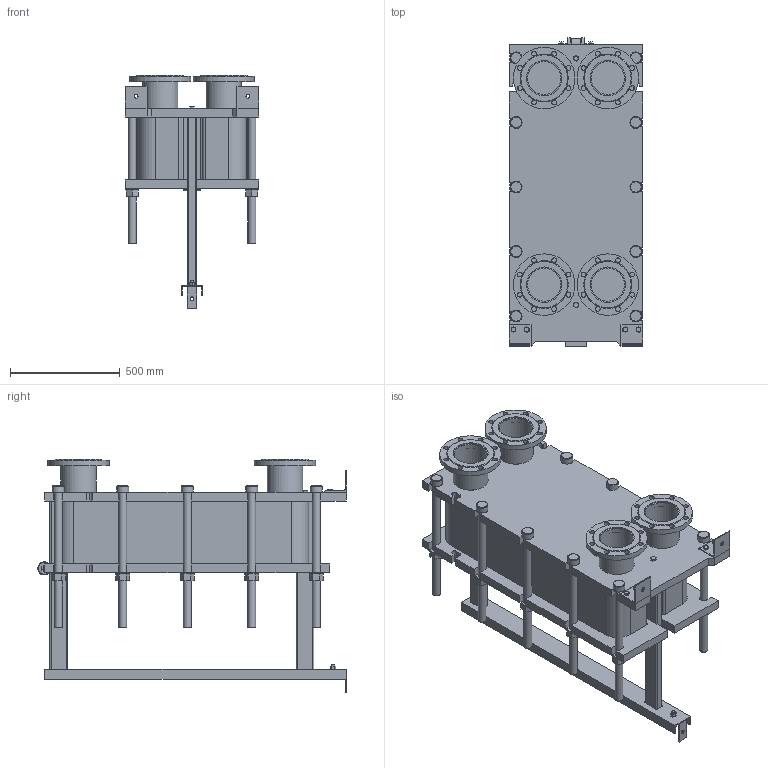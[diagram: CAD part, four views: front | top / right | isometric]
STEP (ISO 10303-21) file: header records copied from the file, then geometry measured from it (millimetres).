
FILE_DESCRIPTION(/* description */ (''),/* implementation_level */ '2;1');
FILE_NAME(/* name */ 'C:\Users\zhuro\Desktop\ENCO\TO\ЭН-041\ЭН-0,5-041-83-1.stp',/* time_stamp */ '2022-06-06T10:56:29+03:00',/* author */ ('zhuro'),/* organization */ (''),/* preprocessor_version */ 'ST-DEVELOPER v18.1',/* originating_system */ 'Autodesk Inventor 2022',/* authorisation */ '');
FILE_SCHEMA (('AUTOMOTIVE_DESIGN { 1 0 10303 214 3 1 1 }'));
Length unit declared in the file: millimetre
Products named in the file (1): ЭН-0,5-041-83-1
Bounding box: 610 x 1406.5 x 1062.5 mm (x, y, z)
Volume: 240332433.2 mm3; surface area: 8649675.1 mm2
Topology: 52 solids, 52 shells, 711 faces, 1696 edges, 1094 vertices
Faces by surface type: plane 487, cylinder 177, cone 41, torus 6
Full cylindrical faces by diameter (mm): 8 x4, 10 x2, 16 x8, 18 x3, 22 x32, 36 x24, 50 x1, 54 x10, 60 x12, 151 x4, 161 x8, 280 x4
Entity records: 22667 total; most frequent: CARTESIAN_POINT 5230, DIRECTION 3644, ORIENTED_EDGE 3392, EDGE_CURVE 1696, AXIS2_PLACEMENT_3D 1272, LINE 1100, VECTOR 1100, VERTEX_POINT 1094
